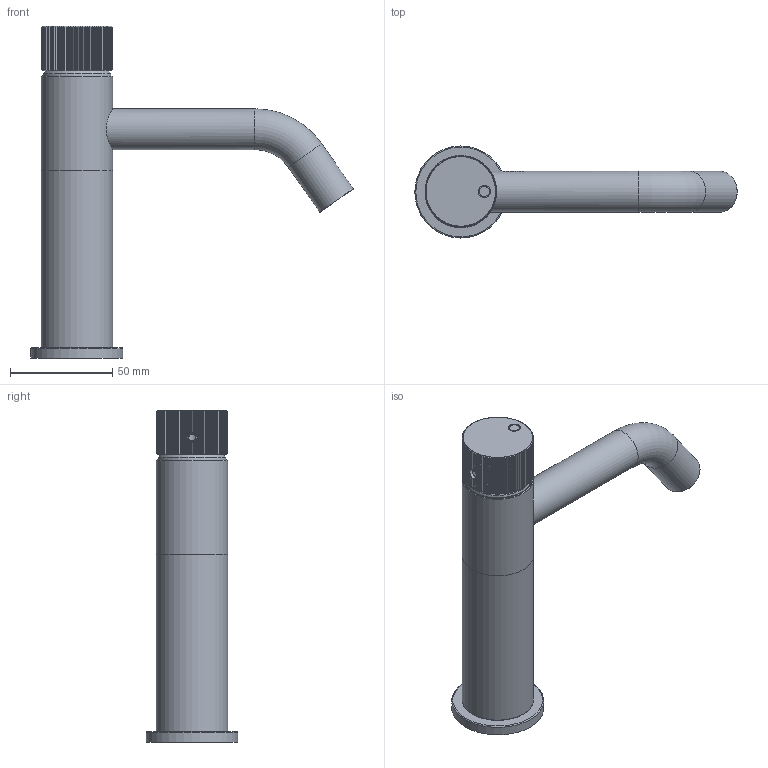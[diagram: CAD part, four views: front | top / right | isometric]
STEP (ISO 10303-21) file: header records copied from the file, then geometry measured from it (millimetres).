
FILE_DESCRIPTION(/* description */ ('Unknown'),/* implementation_level */ '2;1');
FILE_NAME(/* name */ 'RE020',/* time_stamp */ '2023-07-04T14:21:46+02:00',/* author */ ('Unknown'),/* organization */ ('Unknown'),/* preprocessor_version */ 'ST-DEVELOPER v18.102',/* originating_system */ 'Solid Edge',/* authorisation */ 'Unknown');
FILE_SCHEMA (('MODEL_BASED_INTEGRATED_MANUFACTURING_SCHEMA','AUTOMOTIVE_DESIGN {1 0 10303 214 3 1 1}'));
Length unit declared in the file: millimetre
Products named in the file (9): RE020; RE020-05; RE020-02; RE020-01; RE020-03; RE020-09; RE020-07; 44.3256.450_oa_0; 44.3256.450-1
Assembly tree (8 placements, depth 3):
  RE020
    RE020-05
    RE020-02
    RE020-01
    RE020-03
    RE020-09
    RE020-07
    44.3256.450_oa_0
      44.3256.450-1
Bounding box: 157.7 x 45 x 162.4 mm (x, y, z)
Volume: 70617.4 mm3; surface area: 58858.2 mm2
Topology: 7 solids, 7 shells, 748 faces, 2097 edges, 1390 vertices
Faces by surface type: plane 330, cone 214, cylinder 163, torus 23, bspline 17, sphere 1
Full cylindrical faces by diameter (mm): 3.2 x2, 3.242 x1, 5 x4, 6 x2, 6.647 x2, 8.917 x4, 10 x1, 11 x3, 12.196 x1, 13.464 x1, 13.5 x1, 14.577 x1, 15 x1, 15.033 x1, 15.218 x1, 15.229 x1, 15.417 x2, 16.376 x2, 16.5 x2, 16.75 x1, 18 x1, 18.3 x1, 20 x2, 22 x1, 25.5 x1, 26 x2, 27.917 x2, 28 x1, 29.5 x1, 30.5 x1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
Entity records: 29001 total; most frequent: CARTESIAN_POINT 5829, ORIENTED_EDGE 3804, DIRECTION 3559, EDGE_CURVE 1902, AXIS2_PLACEMENT_3D 1342, VERTEX_POINT 1321, FACE_BOUND 913, EDGE_LOOP 909
